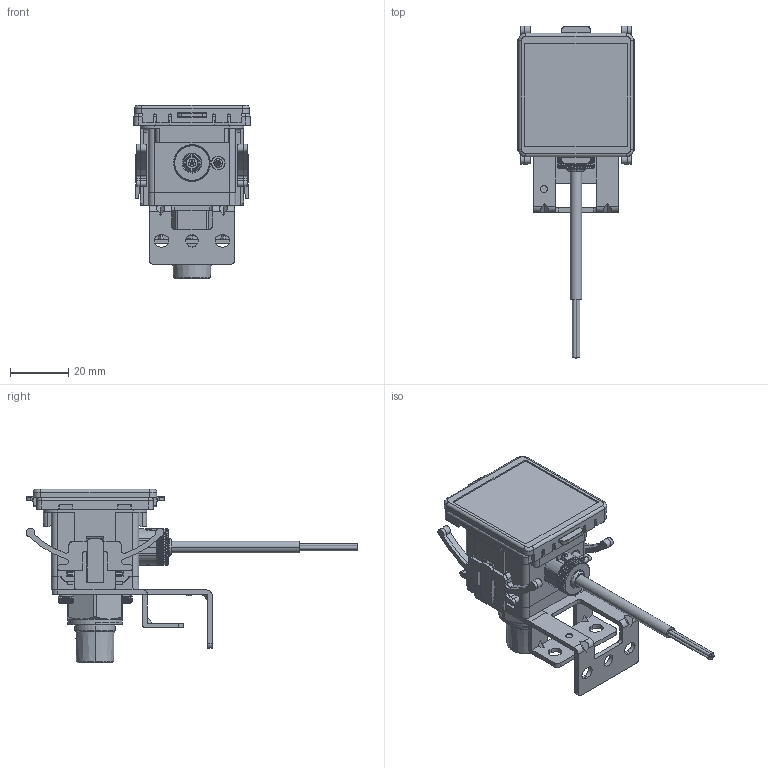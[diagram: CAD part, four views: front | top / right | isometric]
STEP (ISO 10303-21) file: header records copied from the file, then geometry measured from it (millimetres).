
FILE_DESCRIPTION((''),'2;1');
FILE_NAME('KP50E-F1C-ALL_ASM','2021-09-09T',('tommy'),(''),'CREO PARAMETRIC BY PTC INC, 2014500','CREO PARAMETRIC BY PTC INC, 2014500','');
FILE_SCHEMA(('CONFIG_CONTROL_DESIGN'));
Products named in the file (6): KP50E-F1C; BT-10; BT-11; PA-E; PA-F; KP50E-F1C-ALL_ASM
Assembly tree (5 placements, depth 2):
  KP50E-F1C-ALL_ASM
    KP50E-F1C
    BT-10
    BT-11
    PA-E
    PA-F
Bounding box: 40 x 114 x 59.6 mm (x, y, z)
Volume: 41561.9 mm3; surface area: 48617.5 mm2
Topology: 6 solids, 28 shells, 4633 faces, 12087 edges, 7531 vertices
Faces by surface type: plane 2201, cylinder 1249, cone 577, bspline 438, sphere 80, torus 74, extrusion 14
Entity records: 187020 total; most frequent: CARTESIAN_POINT 80085, ORIENTED_EDGE 24138, DIRECTION 19422, EDGE_CURVE 12069, VERTEX_POINT 7531, AXIS2_PLACEMENT_3D 6586, VECTOR 6250, LINE 6236
